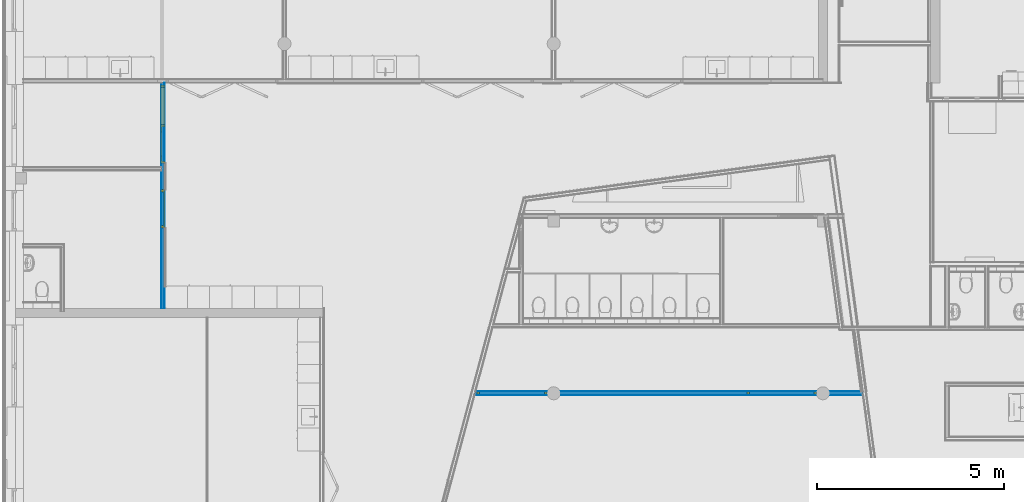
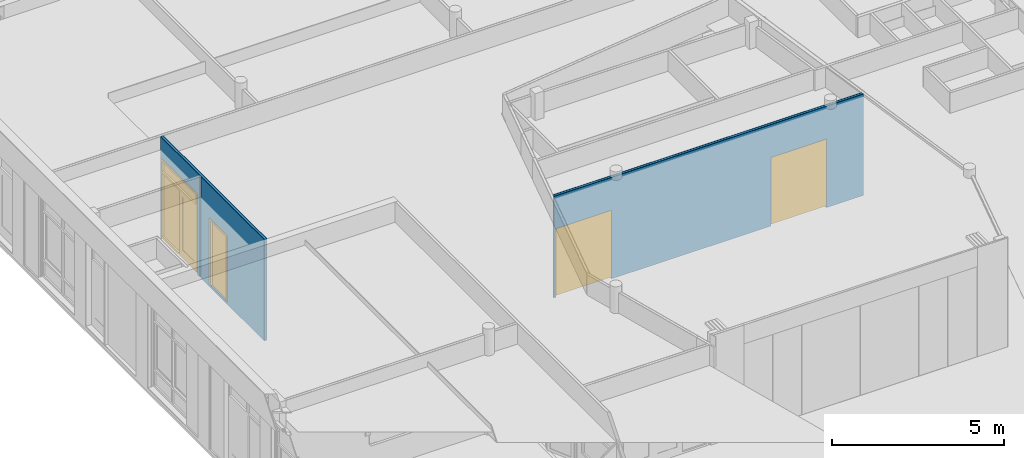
# One storey, part 32 of 167: 6 building element parts, 4 doors, 4 openings, 2 elements without a shape of their own.
"""IFC2X3 building model written with IfcOpenShell, lengths in millimetres."""

from ifc_helpers import new_model, entity, si_unit, converted_unit, derived_unit, money_unit, direction, frame, origin_with_axes, place, context, subcontext, project, spatial, open_shell, faceted_brep, surface_model, source, transform, mapped, material, type_object, type_shapes, element, fill, aggregate, save


model = new_model("IFC2X3")

# Units and contexts
model_context = context("Model", 3, precision=0.01, world=origin_with_axes(), true_north=direction((0.0, 1.0)))
plan_context = context("Plan", 3, precision=0.01, world=origin_with_axes(), true_north=direction((0.0, 1.0)))
body_context = subcontext(model_context, "Body", "Model", "MODEL_VIEW")
ifc_project = project(units=[si_unit("LENGTHUNIT", "METRE", prefix="MILLI"), si_unit("AREAUNIT", "SQUARE_METRE"), si_unit("VOLUMEUNIT", "CUBIC_METRE"), converted_unit("PLANEANGLEUNIT", "DEGREE", entity("IfcPlaneAngleMeasure", 0.0174532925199), si_unit("PLANEANGLEUNIT", "RADIAN"), dimensions=[0, 0, 0, 0, 0, 0, 0]), si_unit("SOLIDANGLEUNIT", "STERADIAN"), money_unit("EUR"), converted_unit("TIMEUNIT", "Year", entity("IfcTimeMeasure", 31556926.0), si_unit("TIMEUNIT", "SECOND"), dimensions=[0, 0, 1, 0, 0, 0, 0]), si_unit("MASSUNIT", "GRAM", prefix="KILO"), si_unit("THERMODYNAMICTEMPERATUREUNIT", "DEGREE_CELSIUS"), si_unit("LUMINOUSINTENSITYUNIT", "LUMEN"), si_unit("ENERGYUNIT", "JOULE", prefix="MEGA"), derived_unit("THERMALCONDUCTANCEUNIT", [(si_unit("POWERUNIT", "WATT"), 1), (si_unit("LENGTHUNIT", "METRE"), -1), (si_unit("THERMODYNAMICTEMPERATUREUNIT", "KELVIN"), -1)]), derived_unit("SPECIFICHEATCAPACITYUNIT", [(si_unit("ENERGYUNIT", "JOULE"), 1), (si_unit("MASSUNIT", "GRAM", prefix="KILO"), -1), (si_unit("THERMODYNAMICTEMPERATUREUNIT", "KELVIN"), -1)]), derived_unit("MASSDENSITYUNIT", [(si_unit("MASSUNIT", "GRAM", prefix="KILO"), 1), (si_unit("VOLUMEUNIT", "CUBIC_METRE"), -1)])], contexts=[model_context, plan_context])

# Site, building, storey
site_placement = place(None, origin_with_axes())
site = spatial("IfcSite", under=ifc_project, at=site_placement, Name="Site", CompositionType="ELEMENT")
building_placement = place(site_placement, origin_with_axes())
building = spatial("IfcBuilding", under=site, at=building_placement, Name="Naam gebouw", CompositionType="ELEMENT")
storey_placement = place(building_placement, origin_with_axes())
storey = spatial("IfcBuildingStorey", under=building, at=storey_placement, Name="Begane grond", CompositionType="ELEMENT", Elevation=0.0)

# Door
door_style_1 = type_object("IfcDoorStyle", Name="D1 bl zl1-b 24", ConstructionType="NOTDEFINED", OperationType="SINGLE_SWING_LEFT", ParameterTakesPrecedence=False, Sizeable=False)
shared_shape_1 = source(origin_with_axes(), body_context, "Body", "SurfaceModel", [
    faceted_brep([(1050.0, 0.0, 0.0), (1050.0, -114.0, 0.0), (983.0, -114.0, 0.0), (983.0, 0.0, 0.0), (1050.0, 0.0, 2733.0), (1050.0, -114.0, 2733.0), (983.0, -114.0, 2733.0), (983.0, -114.0, 2375.0), (983.0, -114.0, 2300.0), (983.0, -114.0, 67.0), (983.0, 0.0, 67.0), (983.0, 0.0, 2300.0), (983.0, 0.0, 2375.0), (983.0, 0.0, 2733.0)], [[[0, 1, 2, 3]], [[4, 5, 1, 0]], [[1, 5, 6, 7, 8, 9, 2]], [[3, 2, 9, 10]], [[0, 3, 10, 11, 12, 13, 4]], [[13, 6, 5, 4]], [[12, 7, 6, 13]], [[11, 8, 7, 12]], [[10, 9, 8, 11]]]),
    faceted_brep([(-83.0, -40.0, 0.0), (-83.0, -114.0, 0.0), (-83.0, -114.0, 2300.0), (-83.0, -40.0, 2300.0), (-58.0, -40.0, 0.0), (-58.0, 0.0, 0.0), (-16.0, 0.0, 0.0), (-16.0, -114.0, 0.0), (-16.0, -114.0, 67.0), (-16.0, -114.0, 2300.0), (-58.0, -40.0, 2300.0), (-16.0, 0.0, 2300.0), (-58.0, 0.0, 2300.0), (-16.0, 0.0, 67.0)], [[[0, 1, 2, 3]], [[4, 5, 6, 7, 1, 0]], [[7, 8, 9, 2, 1]], [[10, 3, 2, 9, 11, 12]], [[10, 4, 0, 3]], [[12, 5, 4, 10]], [[12, 11, 13, 6, 5]], [[6, 13, 8, 7]], [[13, 11, 9, 8]]]),
    faceted_brep([(983.0, 0.0, 67.0), (983.0, -114.0, 67.0), (983.0, -114.0, 0.0), (983.0, 0.0, 0.0), (-16.0, 0.0, 67.0), (-16.0, -114.0, 67.0), (-16.0, -114.0, 0.0), (-16.0, 0.0, 0.0)], [[[0, 1, 2, 3]], [[4, 5, 1, 0]], [[1, 5, 6, 2]], [[3, 2, 6, 7]], [[0, 3, 7, 4]], [[7, 6, 5, 4]]]),
    faceted_brep([(-1008.0, 0.0, 2325.0), (-1008.0, 0.0, 0.0), (-1050.0, 0.0, 0.0), (-1050.0, 0.0, 2733.0), (-983.0, 0.0, 2733.0), (-983.0, 0.0, 2375.0), (-983.0, 0.0, 2325.0), (-1008.0, -40.0, 2325.0), (-1008.0, -40.0, 0.0), (-983.0, -40.0, 0.0), (-983.0, -114.0, 0.0), (-1050.0, -114.0, 0.0), (-1050.0, -114.0, 2733.0), (-983.0, -114.0, 2733.0), (-983.0, -114.0, 2375.0), (-983.0, -40.0, 2325.0), (-983.0, -114.0, 2300.0)], [[[0, 1, 2, 3, 4, 5, 6]], [[0, 7, 8, 1]], [[8, 9, 10, 11, 2, 1]], [[3, 2, 11, 12]], [[4, 3, 12, 13]], [[5, 4, 13, 14]], [[15, 6, 5, 14, 16, 10, 9]], [[6, 15, 7, 0]], [[8, 7, 15, 9]], [[14, 13, 12, 11, 10, 16]]]),
    faceted_brep([(1050.0, 0.0, 2800.0), (1050.0, -114.0, 2800.0), (1050.0, -114.0, 2733.0), (1050.0, 0.0, 2733.0), (-1050.0, 0.0, 2800.0), (-1050.0, -114.0, 2800.0), (-1050.0, -114.0, 2733.0), (-983.0, -114.0, 2733.0), (983.0, -114.0, 2733.0), (983.0, 0.0, 2733.0), (-983.0, 0.0, 2733.0), (-1050.0, 0.0, 2733.0)], [[[0, 1, 2, 3]], [[4, 5, 1, 0]], [[1, 5, 6, 7, 8, 2]], [[3, 2, 8, 9]], [[0, 3, 9, 10, 11, 4]], [[11, 6, 5, 4]], [[10, 7, 6, 11]], [[9, 8, 7, 10]]]),
    faceted_brep([(-983.0, -40.0, 2325.0), (-983.0, -40.0, 2300.0), (-983.0, -114.0, 2300.0), (-983.0, -114.0, 2375.0), (-983.0, 0.0, 2375.0), (-983.0, 0.0, 2325.0), (-58.0, -40.0, 2325.0), (-58.0, -40.0, 2300.0), (-83.0, -40.0, 2300.0), (-83.0, -114.0, 2300.0), (-16.0, -114.0, 2300.0), (983.0, -114.0, 2300.0), (983.0, -114.0, 2375.0), (983.0, 0.0, 2375.0), (-58.0, 0.0, 2325.0), (983.0, 0.0, 2300.0), (-16.0, 0.0, 2300.0), (-58.0, 0.0, 2300.0)], [[[0, 1, 2, 3, 4, 5]], [[0, 6, 7, 8, 1]], [[8, 9, 2, 1]], [[9, 10, 11, 12, 3, 2]], [[13, 4, 3, 12]], [[14, 5, 4, 13, 15, 16, 17]], [[5, 14, 6, 0]], [[17, 7, 6, 14]], [[7, 17, 16, 10, 9, 8]], [[16, 15, 11, 10]], [[15, 13, 12, 11]]]),
    faceted_brep([(-1008.0, 0.0, 300.0), (-858.0, 0.0, 300.0), (-858.0, -40.0, 300.0), (-1008.0, -40.0, 300.0), (-1008.0, 0.0, 2175.0), (-858.0, 0.0, 2175.0), (-858.0, -40.0, 2175.0), (-1008.0, -40.0, 2175.0)], [[[0, 1, 2, 3]], [[0, 4, 5, 1]], [[1, 5, 6, 2]], [[3, 2, 6, 7]], [[4, 0, 3, 7]], [[5, 4, 7, 6]]]),
    faceted_brep([(-58.0, 0.0, 300.0), (-58.0, 0.0, 2175.0), (-58.0, -40.0, 2175.0), (-58.0, -40.0, 300.0), (-208.0, 0.0, 300.0), (-208.0, 0.0, 2175.0), (-208.0, -40.0, 2175.0), (-208.0, -40.0, 300.0)], [[[0, 1, 2, 3]], [[0, 4, 5, 1]], [[1, 5, 6, 2]], [[3, 2, 6, 7]], [[4, 0, 3, 7]], [[5, 4, 7, 6]]]),
    faceted_brep([(-1008.0, 0.0, 0.0), (-58.0, 0.0, 0.0), (-58.0, -40.0, 0.0), (-1008.0, -40.0, 0.0), (-1008.0, 0.0, 300.0), (-858.0, 0.0, 300.0), (-208.0, 0.0, 300.0), (-58.0, 0.0, 300.0), (-58.0, -40.0, 300.0), (-208.0, -40.0, 300.0), (-858.0, -40.0, 300.0), (-1008.0, -40.0, 300.0)], [[[0, 1, 2, 3]], [[0, 4, 5, 6, 7, 1]], [[1, 7, 8, 2]], [[3, 2, 8, 9, 10, 11]], [[4, 0, 3, 11]], [[5, 4, 11, 10]], [[6, 5, 10, 9]], [[7, 6, 9, 8]]]),
    faceted_brep([(-1008.0, 0.0, 2325.0), (-1008.0, 0.0, 2175.0), (-1008.0, -40.0, 2175.0), (-1008.0, -40.0, 2325.0), (-58.0, 0.0, 2325.0), (-58.0, 0.0, 2175.0), (-208.0, 0.0, 2175.0), (-858.0, 0.0, 2175.0), (-858.0, -40.0, 2175.0), (-208.0, -40.0, 2175.0), (-58.0, -40.0, 2175.0), (-58.0, -40.0, 2325.0)], [[[0, 1, 2, 3]], [[0, 4, 5, 6, 7, 1]], [[1, 7, 8, 2]], [[3, 2, 8, 9, 10, 11]], [[4, 0, 3, 11]], [[5, 4, 11, 10]], [[6, 5, 10, 9]], [[7, 6, 9, 8]]]),
    surface_model("IfcShellBasedSurfaceModel", [(-858.0, -14.0, 300.0), (-858.0, -14.0, 2175.0), (-208.0, -14.0, 2175.0), (-208.0, -14.0, 300.0)], [open_shell([[[0, 1, 2, 3]]])]),
    surface_model("IfcShellBasedSurfaceModel", [(-858.0, -26.0, 300.0), (-208.0, -26.0, 300.0), (-208.0, -26.0, 2175.0), (-858.0, -26.0, 2175.0)], [open_shell([[[0, 1, 2, 3]]])]),
    surface_model("IfcShellBasedSurfaceModel", [(983.0, -54.0, 2375.0), (-983.0, -54.0, 2375.0), (-983.0, -54.0, 2733.0), (983.0, -54.0, 2733.0)], [open_shell([[[0, 1, 2, 3]]])]),
    surface_model("IfcShellBasedSurfaceModel", [(983.0, -66.0, 2375.0), (983.0, -66.0, 2733.0), (-983.0, -66.0, 2733.0), (-983.0, -66.0, 2375.0)], [open_shell([[[0, 1, 2, 3]]])]),
    surface_model("IfcShellBasedSurfaceModel", [(983.0, -54.0, 67.0), (-16.0, -54.0, 67.0), (-16.0, -54.0, 2300.0), (983.0, -54.0, 2300.0)], [open_shell([[[0, 1, 2, 3]]])]),
    surface_model("IfcShellBasedSurfaceModel", [(983.0, -66.0, 67.0), (983.0, -66.0, 2300.0), (-16.0, -66.0, 2300.0), (-16.0, -66.0, 67.0)], [open_shell([[[0, 1, 2, 3]]])]),
])
type_shapes(door_style_1, [shared_shape_1])
wall_1_placement = place(storey_placement, frame((3950.0, 42200.0, -100.0), z_axis=(0.0, 0.0, 1.0), x_axis=(0.0, -1.0, 0.0)))
opening_1_placement = place(wall_1_placement, frame((1150.0, 0.0, 100.0), z_axis=(0.0, 0.0, 1.0), x_axis=(1.0, 0.0, 0.0)))
door_1_placement = place(opening_1_placement, frame((1050.0, 0.0, 0.0), z_axis=(0.0, 0.0, 1.0), x_axis=(-1.0, 0.0, 0.0)))
door_1 = element("IfcDoor", 1, at=door_1_placement, inside=storey, type_object=door_style_1, Name="32_Deur_Hi-52", ObjectType="DOOR", OverallHeight=2800.0, OverallWidth=2100.0, context=body_context, shape_type="MappedRepresentation", body=[
    mapped(shared_shape_1, transform((1050.0, 64.0, 0.0))),
])

door_style_2 = type_object("IfcDoorStyle", Name="D1 24", ConstructionType="NOTDEFINED", OperationType="SINGLE_SWING_LEFT", ParameterTakesPrecedence=False, Sizeable=False)
shared_shape_2 = source(origin_with_axes(), body_context, "Body", "Brep", [
    faceted_brep([(450.0, -40.0, 0.0), (450.0, -114.0, 0.0), (450.0, -114.0, 2300.0), (450.0, -40.0, 2300.0), (475.0, -40.0, 0.0), (475.0, 0.0, 0.0), (517.0, 0.0, 0.0), (517.0, -114.0, 0.0), (517.0, -114.0, 2300.0), (475.0, -40.0, 2300.0), (517.0, 0.0, 2300.0), (475.0, 0.0, 2300.0)], [[[0, 1, 2, 3]], [[4, 5, 6, 7, 1, 0]], [[1, 7, 8, 2]], [[9, 3, 2, 8, 10, 11]], [[9, 4, 0, 3]], [[11, 5, 4, 9]], [[11, 10, 6, 5]], [[6, 10, 8, 7]]]),
    faceted_brep([(-475.0, -40.0, 2300.0), (-475.0, 0.0, 2300.0), (-517.0, 0.0, 2300.0), (-517.0, -114.0, 2300.0), (-450.0, -114.0, 2300.0), (-450.0, -40.0, 2300.0), (-475.0, -40.0, 0.0), (-475.0, 0.0, 0.0), (-517.0, 0.0, 0.0), (-517.0, -114.0, 0.0), (-450.0, -114.0, 0.0), (-450.0, -40.0, 0.0)], [[[0, 1, 2, 3, 4, 5]], [[0, 6, 7, 1]], [[7, 8, 2, 1]], [[2, 8, 9, 3]], [[3, 9, 10, 4]], [[5, 4, 10, 11]], [[5, 11, 6, 0]], [[6, 11, 10, 9, 8, 7]]]),
    faceted_brep([(475.0, 0.0, 2325.0), (-475.0, 0.0, 2325.0), (-475.0, 0.0, 2300.0), (-517.0, 0.0, 2300.0), (-517.0, 0.0, 2367.0), (517.0, 0.0, 2367.0), (517.0, 0.0, 2300.0), (475.0, 0.0, 2300.0), (475.0, -40.0, 2325.0), (-475.0, -40.0, 2325.0), (-475.0, -40.0, 2300.0), (-450.0, -40.0, 2300.0), (-450.0, -114.0, 2300.0), (-517.0, -114.0, 2300.0), (-517.0, -114.0, 2367.0), (517.0, -114.0, 2367.0), (517.0, -114.0, 2300.0), (475.0, -40.0, 2300.0), (450.0, -114.0, 2300.0), (450.0, -40.0, 2300.0)], [[[0, 1, 2, 3, 4, 5, 6, 7]], [[0, 8, 9, 1]], [[1, 9, 10, 2]], [[10, 11, 12, 13, 3, 2]], [[4, 3, 13, 14]], [[5, 4, 14, 15]], [[6, 5, 15, 16]], [[17, 7, 6, 16, 18, 19]], [[7, 17, 8, 0]], [[10, 9, 8, 17, 19, 11]], [[19, 18, 12, 11]], [[12, 18, 16, 15, 14, 13]]]),
    faceted_brep([(-475.0, 0.0, 0.0), (475.0, 0.0, 0.0), (475.0, -40.0, 0.0), (-475.0, -40.0, 0.0), (-475.0, 0.0, 2325.0), (475.0, 0.0, 2325.0), (475.0, -40.0, 2325.0), (-475.0, -40.0, 2325.0)], [[[0, 1, 2, 3]], [[0, 4, 5, 1]], [[1, 5, 6, 2]], [[3, 2, 6, 7]], [[4, 0, 3, 7]], [[5, 4, 7, 6]]]),
])
type_shapes(door_style_2, [shared_shape_2])
opening_2_placement = place(wall_1_placement, frame((3417.0, 0.0, 102.0), z_axis=(0.0, 0.0, 1.0), x_axis=(1.0, 0.0, 0.0)))
door_2_placement = place(opening_2_placement, frame((-517.0, 0.0, 0.0), z_axis=(0.0, 0.0, 1.0), x_axis=(1.0, 0.0, 0.0)))
door_2 = element("IfcDoor", 2, at=door_2_placement, inside=storey, type_object=door_style_2, Name="32_Deur_Hi-02", ObjectType="DOOR", OverallHeight=2367.0, OverallWidth=1034.0, context=body_context, shape_type="MappedRepresentation", body=[
    mapped(shared_shape_2, transform((517.0, 50.0, 0.0))),
])

door_style_3 = type_object("IfcDoorStyle", Name="D2 24", ConstructionType="NOTDEFINED", OperationType="DOUBLE_DOOR_SINGLE_SWING", ParameterTakesPrecedence=False, Sizeable=False)
shared_shape_3 = source(origin_with_axes(), body_context, "Body", "Brep", [
    faceted_brep([(865.5, -40.0, 0.0), (865.5, -114.0, 0.0), (865.5, -114.0, 2300.0), (865.5, -40.0, 2300.0), (890.5, -40.0, 0.0), (890.5, 0.0, 0.0), (932.5, 0.0, 0.0), (932.5, -114.0, 0.0), (932.5, -114.0, 2300.0), (890.5, -40.0, 2300.0), (932.5, 0.0, 2300.0), (890.5, 0.0, 2300.0)], [[[0, 1, 2, 3]], [[4, 5, 6, 7, 1, 0]], [[1, 7, 8, 2]], [[9, 3, 2, 8, 10, 11]], [[9, 4, 0, 3]], [[11, 5, 4, 9]], [[11, 10, 6, 5]], [[6, 10, 8, 7]]]),
    faceted_brep([(-890.5, -40.0, 2300.0), (-890.5, 0.0, 2300.0), (-932.5, 0.0, 2300.0), (-932.5, -114.0, 2300.0), (-865.5, -114.0, 2300.0), (-865.5, -40.0, 2300.0), (-890.5, -40.0, 0.0), (-890.5, 0.0, 0.0), (-932.5, 0.0, 0.0), (-932.5, -114.0, 0.0), (-865.5, -114.0, 0.0), (-865.5, -40.0, 0.0)], [[[0, 1, 2, 3, 4, 5]], [[0, 6, 7, 1]], [[7, 8, 2, 1]], [[2, 8, 9, 3]], [[3, 9, 10, 4]], [[5, 4, 10, 11]], [[5, 11, 6, 0]], [[6, 11, 10, 9, 8, 7]]]),
    faceted_brep([(890.5, 0.0, 2325.0), (-890.5, 0.0, 2325.0), (-890.5, 0.0, 2300.0), (-932.5, 0.0, 2300.0), (-932.5, 0.0, 2367.0), (932.5, 0.0, 2367.0), (932.5, 0.0, 2300.0), (890.5, 0.0, 2300.0), (890.5, -40.0, 2325.0), (-890.5, -40.0, 2325.0), (-890.5, -40.0, 2300.0), (-865.5, -40.0, 2300.0), (-865.5, -114.0, 2300.0), (-932.5, -114.0, 2300.0), (-932.5, -114.0, 2367.0), (932.5, -114.0, 2367.0), (932.5, -114.0, 2300.0), (890.5, -40.0, 2300.0), (865.5, -114.0, 2300.0), (865.5, -40.0, 2300.0)], [[[0, 1, 2, 3, 4, 5, 6, 7]], [[0, 8, 9, 1]], [[1, 9, 10, 2]], [[10, 11, 12, 13, 3, 2]], [[4, 3, 13, 14]], [[5, 4, 14, 15]], [[6, 5, 15, 16]], [[17, 7, 6, 16, 18, 19]], [[7, 17, 8, 0]], [[10, 9, 8, 17, 19, 11]], [[19, 18, 12, 11]], [[12, 18, 16, 15, 14, 13]]]),
    faceted_brep([(-890.5, 0.0, 0.0), (0.0, 0.0, 0.0), (0.0, -40.0, 0.0), (-890.5, -40.0, 0.0), (-890.5, 0.0, 2325.0), (0.0, 0.0, 2325.0), (0.0, -40.0, 2325.0), (-890.5, -40.0, 2325.0)], [[[0, 1, 2, 3]], [[0, 4, 5, 1]], [[1, 5, 6, 2]], [[3, 2, 6, 7]], [[4, 0, 3, 7]], [[5, 4, 7, 6]]]),
    faceted_brep([(890.5, 0.0, 0.0), (890.5, -40.0, 0.0), (0.0, -40.0, 0.0), (0.0, 0.0, 0.0), (890.5, 0.0, 2325.0), (890.5, -40.0, 2325.0), (0.0, -40.0, 2325.0), (0.0, 0.0, 2325.0)], [[[0, 1, 2, 3]], [[4, 5, 1, 0]], [[1, 5, 6, 2]], [[3, 2, 6, 7]], [[0, 3, 7, 4]], [[7, 6, 5, 4]]]),
])
type_shapes(door_style_3, [shared_shape_3])
wall_2_placement = place(storey_placement, frame((12249.0203472, 33851.6966009, -100.0), z_axis=(0.0, 0.0, 1.0), x_axis=(1.0, 0.0, 0.0)))
opening_3_placement = place(wall_2_placement, frame((1036.12328744, 0.0, 100.0), z_axis=(0.0, 0.0, 1.0), x_axis=(1.0, 0.0, 0.0)))
door_3_placement = place(opening_3_placement, frame((932.5, 0.0, 0.0), z_axis=(0.0, 0.0, 1.0), x_axis=(-1.0, 0.0, 0.0)))
door_3 = element("IfcDoor", 3, at=door_3_placement, inside=storey, type_object=door_style_3, Name="32_Deur_Hi-09", ObjectType="DOOR", OverallHeight=2367.0, OverallWidth=1865.0, context=body_context, shape_type="MappedRepresentation", body=[
    mapped(shared_shape_3, transform((932.5, 50.0, 0.0))),
])

opening_4_placement = place(wall_2_placement, frame((8250.77455446, 0.0, 100.0), z_axis=(0.0, 0.0, 1.0), x_axis=(1.0, 0.0, 0.0)))
door_4_placement = place(opening_4_placement, frame((932.5, 0.0, 0.0), z_axis=(0.0, 0.0, 1.0), x_axis=(-1.0, 0.0, 0.0)))
door_4 = element("IfcDoor", 4, at=door_4_placement, inside=storey, type_object=door_style_3, Name="32_Deur_Hi-09", ObjectType="DOOR", OverallHeight=2367.0, OverallWidth=1865.0, context=body_context, shape_type="MappedRepresentation", body=[
    mapped(shared_shape_3, transform((932.5, 50.0, 0.0))),
])

# Wall, opening
wall_type = type_object("IfcWallType", Name="_TenW_22_Metalstud 100 enkel gipsvezelplaat 100", PredefinedType="NOTDEFINED")
wall_1 = element("IfcWall", 5, at=wall_1_placement, inside=storey, type_object=wall_type, Name="22_Wand_Wand-x")
opening_1 = element("IfcOpeningElement", 6, at=opening_1_placement, cuts=wall_1, Name="32_Deur_Hi-52", context=body_context, shape_type="Brep", body=[
    faceted_brep([(1050.0, 200.0, 0.0), (1050.0, 200.0, 2800.0), (1050.0, -100.0, 2800.0), (1050.0, -100.0, 0.0), (-1050.0, 200.0, 0.0), (-1050.0, 200.0, 2800.0), (-1050.0, -100.0, 2800.0), (-1050.0, -100.0, 0.0)], [[[0, 1, 2, 3]], [[0, 4, 5, 1]], [[1, 5, 6, 2]], [[3, 2, 6, 7]], [[4, 0, 3, 7]], [[5, 4, 7, 6]]]),
])

fill(opening_1, door_1)

# Opening
opening_2 = element("IfcOpeningElement", 7, at=opening_2_placement, cuts=wall_1, Name="32_Deur_Hi-02", context=body_context, shape_type="Brep", body=[
    faceted_brep([(-517.0, 200.0, 2367.0), (-517.0, 200.0, 0.0), (-517.0, -100.0, 0.0), (-517.0, -100.0, 2367.0), (517.0, 200.0, 2367.0), (517.0, 200.0, 0.0), (517.0, -100.0, 0.0), (517.0, -100.0, 2367.0)], [[[0, 1, 2, 3]], [[0, 4, 5, 1]], [[1, 5, 6, 2]], [[3, 2, 6, 7]], [[4, 0, 3, 7]], [[5, 4, 7, 6]]]),
])

fill(opening_2, door_2)

# Building element part
ifc_material_1 = material(Name="Gipsplaat watervast")
building_element_part_1_placement = place(wall_1_placement, origin_with_axes())
building_element_part_1 = element("IfcBuildingElementPart", 8, at=building_element_part_1_placement, material=ifc_material_1, Name="Gipsplaat watervast", context=body_context, shape_type="Brep", body=[
    faceted_brep([(100.0, 37.5, 30.0), (100.0, 37.5, 100.0), (100.0, 37.5, 2900.0), (2200.0, 37.5, 2900.0), (2200.0, 37.5, 100.0), (2200.0, 37.5, 30.0), (6075.0, 37.5, 30.0), (6075.0, 37.5, 3630.0), (37.5, 37.5, 3630.0), (37.5, 37.5, 30.0), (3934.0, 37.5, 102.0), (2900.0, 37.5, 102.0), (2900.0, 37.5, 2469.0), (3934.0, 37.5, 2469.0), (100.0, 50.0, 30.0), (100.0, 50.0, 100.0), (100.0, 50.0, 2900.0), (2200.0, 50.0, 2900.0), (2200.0, 50.0, 100.0), (2200.0, 50.0, 30.0), (6075.0, 50.0, 30.0), (6075.0, 50.0, 3630.0), (37.5, 50.0, 3630.0), (37.5, 50.0, 30.0), (3934.0, 50.0, 102.0), (2900.0, 50.0, 102.0), (2900.0, 50.0, 2469.0), (3934.0, 50.0, 2469.0)], [[[0, 1, 2, 3, 4, 5, 6, 7, 8, 9], [10, 11, 12, 13]], [[1, 0, 14, 15]], [[16, 2, 1, 15]], [[17, 3, 2, 16]], [[18, 4, 3, 17]], [[18, 19, 5, 4]], [[20, 6, 5, 19]], [[21, 7, 6, 20]], [[8, 7, 21, 22]], [[8, 22, 23, 9]], [[9, 23, 14, 0]], [[24, 25, 11, 10]], [[25, 26, 12, 11]], [[26, 27, 13, 12]], [[27, 24, 10, 13]], [[21, 20, 19, 18, 17, 16, 15, 14, 23, 22], [24, 27, 26, 25]]]),
])

ifc_material_2 = material(Name="Isolatie - Steenwol zacht")
building_element_part_2_placement = place(wall_1_placement, origin_with_axes())
building_element_part_2 = element("IfcBuildingElementPart", 9, at=building_element_part_2_placement, material=ifc_material_2, Name="Isolatie - Steenwol zacht", context=body_context, shape_type="Brep", body=[
    faceted_brep([(100.0, -37.5, 30.0), (100.0, -37.5, 100.0), (100.0, -37.5, 2900.0), (2200.0, -37.5, 2900.0), (2200.0, -37.5, 100.0), (2200.0, -37.5, 30.0), (6075.0, -37.5, 30.0), (6075.0, -37.5, 3630.0), (37.5, -37.5, 3630.0), (37.5, -37.5, 30.0), (3934.0, -37.5, 102.0), (2900.0, -37.5, 102.0), (2900.0, -37.5, 2469.0), (3934.0, -37.5, 2469.0), (100.0, 37.5, 30.0), (100.0, 37.5, 100.0), (100.0, 37.5, 2900.0), (2200.0, 37.5, 2900.0), (2200.0, 37.5, 100.0), (2200.0, 37.5, 30.0), (6075.0, 37.5, 30.0), (6075.0, 37.5, 3630.0), (37.5, 37.5, 3630.0), (37.5, 37.5, 30.0), (3934.0, 37.5, 102.0), (2900.0, 37.5, 102.0), (2900.0, 37.5, 2469.0), (3934.0, 37.5, 2469.0)], [[[0, 1, 2, 3, 4, 5, 6, 7, 8, 9], [10, 11, 12, 13]], [[1, 0, 14, 15]], [[16, 2, 1, 15]], [[17, 3, 2, 16]], [[18, 4, 3, 17]], [[18, 19, 5, 4]], [[20, 6, 5, 19]], [[21, 7, 6, 20]], [[7, 21, 22, 8]], [[8, 22, 23, 9]], [[9, 23, 14, 0]], [[24, 25, 11, 10]], [[25, 26, 12, 11]], [[26, 27, 13, 12]], [[27, 24, 10, 13]], [[21, 20, 19, 18, 17, 16, 15, 14, 23, 22], [24, 27, 26, 25]]]),
])

building_element_part_3_placement = place(wall_1_placement, origin_with_axes())
building_element_part_3 = element("IfcBuildingElementPart", 10, at=building_element_part_3_placement, material=ifc_material_1, Name="Gipsplaat watervast", context=body_context, shape_type="Brep", body=[
    faceted_brep([(2200.0, -37.5, 100.0), (2200.0, -37.5, 2900.0), (100.0, -37.5, 2900.0), (100.0, -37.5, 100.0), (100.0, -37.5, 30.0), (50.0, -37.5, 30.0), (50.0, -37.5, 3630.0), (2312.5, -37.5, 3630.0), (2312.5, -37.5, 30.0), (2200.0, -37.5, 30.0), (2200.0, -50.0, 100.0), (2200.0, -50.0, 2900.0), (100.0, -50.0, 2900.0), (100.0, -50.0, 100.0), (100.0, -50.0, 30.0), (50.0, -50.0, 30.0), (50.0, -50.0, 3630.0), (2312.5, -50.0, 3630.0), (2312.5, -50.0, 30.0), (2200.0, -50.0, 30.0)], [[[0, 1, 2, 3, 4, 5, 6, 7, 8, 9]], [[1, 0, 10, 11]], [[2, 1, 11, 12]], [[3, 2, 12, 13]], [[3, 13, 14, 4]], [[14, 15, 5, 4]], [[15, 16, 6, 5]], [[17, 7, 6, 16]], [[8, 7, 17, 18]], [[9, 8, 18, 19]], [[10, 0, 9, 19]], [[11, 10, 19, 18, 17, 16, 15, 14, 13, 12]]]),
    faceted_brep([(6075.0, -50.0, 30.0), (6075.0, -50.0, 3630.0), (2387.5, -50.0, 3630.0), (2387.5, -50.0, 30.0), (3934.0, -50.0, 102.0), (2900.0, -50.0, 102.0), (2900.0, -50.0, 2469.0), (3934.0, -50.0, 2469.0), (6075.0, -37.5, 30.0), (6075.0, -37.5, 3630.0), (2387.5, -37.5, 3630.0), (2387.5, -37.5, 30.0), (3934.0, -37.5, 102.0), (2900.0, -37.5, 102.0), (2900.0, -37.5, 2469.0), (3934.0, -37.5, 2469.0)], [[[0, 1, 2, 3], [4, 5, 6, 7]], [[8, 9, 1, 0]], [[1, 9, 10, 2]], [[3, 2, 10, 11]], [[11, 8, 0, 3]], [[12, 13, 5, 4]], [[13, 14, 6, 5]], [[14, 15, 7, 6]], [[15, 12, 4, 7]], [[11, 10, 9, 8], [12, 15, 14, 13]]]),
])

aggregate(wall_1, [building_element_part_1, building_element_part_2, building_element_part_3])

# Wall, opening
wall_2 = element("IfcWall", 11, at=wall_2_placement, inside=storey, type_object=wall_type, Name="22_Wand_Wand-x")
opening_3 = element("IfcOpeningElement", 12, at=opening_3_placement, cuts=wall_2, Name="32_Deur_Hi-09", context=body_context, shape_type="Brep", body=[
    faceted_brep([(932.5, -200.0, 2367.0), (932.5, -200.0, 0.0), (932.5, 100.0, 0.0), (932.5, 100.0, 2367.0), (-932.5, -200.0, 2367.0), (-932.5, -200.0, 0.0), (-932.5, 100.0, 0.0), (-932.5, 100.0, 2367.0)], [[[0, 1, 2, 3]], [[0, 4, 5, 1]], [[1, 5, 6, 2]], [[3, 2, 6, 7]], [[4, 0, 3, 7]], [[5, 4, 7, 6]]]),
])

fill(opening_3, door_3)

# Opening
opening_4 = element("IfcOpeningElement", 13, at=opening_4_placement, cuts=wall_2, Name="32_Deur_Hi-09", context=body_context, shape_type="Brep", body=[
    faceted_brep([(932.5, -200.0, 2367.0), (932.5, -200.0, 0.0), (932.5, 100.0, 0.0), (932.5, 100.0, 2367.0), (-932.5, -200.0, 2367.0), (-932.5, -200.0, 0.0), (-932.5, 100.0, 0.0), (-932.5, 100.0, 2367.0)], [[[0, 1, 2, 3]], [[0, 4, 5, 1]], [[1, 5, 6, 2]], [[3, 2, 6, 7]], [[4, 0, 3, 7]], [[5, 4, 7, 6]]]),
])

fill(opening_4, door_4)

# Building element part
building_element_part_4_placement = place(wall_2_placement, origin_with_axes())
building_element_part_4 = element("IfcBuildingElementPart", 14, at=building_element_part_4_placement, material=ifc_material_1, Name="Gipsplaat watervast", context=body_context, shape_type="Brep", body=[
    faceted_brep([(7318.27455446, 50.0, 2467.0), (7318.27455446, 50.0, 100.0), (7318.27455446, 50.0, 30.0), (1968.62328744, 50.0, 30.0), (1968.62328744, 50.0, 100.0), (1968.62328744, 50.0, 2467.0), (103.623287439, 50.0, 2467.0), (103.623287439, 50.0, 100.0), (103.623287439, 50.0, 30.0), (65.1612686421, 50.0, 30.0), (65.1612686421, 50.0, 3630.0), (10409.5568131, 50.0, 3630.0), (10409.5568131, 50.0, 30.0), (9183.27455446, 50.0, 30.0), (9183.27455446, 50.0, 100.0), (9183.27455446, 50.0, 2467.0), (7318.27455446, 37.5, 2467.0), (7318.27455446, 37.5, 100.0), (7318.27455446, 37.5, 30.0), (1968.62328744, 37.5, 30.0), (1968.62328744, 37.5, 100.0), (1968.62328744, 37.5, 2467.0), (103.623287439, 37.5, 2467.0), (103.623287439, 37.5, 100.0), (103.623287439, 37.5, 30.0), (61.8119037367, 37.5, 30.0), (61.8119037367, 37.5, 3630.0), (10411.2497948, 37.5, 3630.0), (10411.2497948, 37.5, 30.0), (9183.27455446, 37.5, 30.0), (9183.27455446, 37.5, 100.0), (9183.27455446, 37.5, 2467.0)], [[[0, 1, 2, 3, 4, 5, 6, 7, 8, 9, 10, 11, 12, 13, 14, 15]], [[1, 0, 16, 17]], [[1, 17, 18, 2]], [[19, 3, 2, 18]], [[4, 3, 19, 20]], [[4, 20, 21, 5]], [[5, 21, 22, 6]], [[6, 22, 23, 7]], [[23, 24, 8, 7]], [[25, 9, 8, 24]], [[9, 25, 26, 10]], [[11, 10, 26, 27]], [[28, 12, 11, 27]], [[12, 28, 29, 13]], [[30, 14, 13, 29]], [[15, 14, 30, 31]], [[0, 15, 31, 16]], [[31, 30, 29, 28, 27, 26, 25, 24, 23, 22, 21, 20, 19, 18, 17, 16]]]),
])

building_element_part_5_placement = place(wall_2_placement, origin_with_axes())
building_element_part_5 = element("IfcBuildingElementPart", 15, at=building_element_part_5_placement, material=ifc_material_2, Name="Isolatie - Steenwol zacht", context=body_context, shape_type="Brep", body=[
    faceted_brep([(7318.27455446, 37.5, 2467.0), (7318.27455446, 37.5, 100.0), (7318.27455446, 37.5, 30.0), (1968.62328744, 37.5, 30.0), (1968.62328744, 37.5, 100.0), (1968.62328744, 37.5, 2467.0), (103.623287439, 37.5, 2467.0), (103.623287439, 37.5, 100.0), (103.623287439, 37.5, 30.0), (48.8709514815, 37.5, 30.0), (48.8709514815, 37.5, 3630.0), (10423.8639213, 37.5, 3630.0), (10423.8639213, 37.5, 30.0), (9183.27455446, 37.5, 30.0), (9183.27455446, 37.5, 100.0), (9183.27455446, 37.5, 2467.0), (7318.27455446, -37.5, 2467.0), (7318.27455446, -37.5, 100.0), (7318.27455446, -37.5, 30.0), (1968.62328744, -37.5, 30.0), (1968.62328744, -37.5, 100.0), (1968.62328744, -37.5, 2467.0), (103.623287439, -37.5, 2467.0), (103.623287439, -37.5, 100.0), (103.623287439, -37.5, 30.0), (28.7747620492, -37.5, 30.0), (28.7747620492, -37.5, 3630.0), (10434.0218117, -37.5, 3630.0), (10434.0218117, -37.5, 30.0), (9183.27455446, -37.5, 30.0), (9183.27455446, -37.5, 100.0), (9183.27455446, -37.5, 2467.0)], [[[0, 1, 2, 3, 4, 5, 6, 7, 8, 9, 10, 11, 12, 13, 14, 15]], [[1, 0, 16, 17]], [[1, 17, 18, 2]], [[19, 3, 2, 18]], [[4, 3, 19, 20]], [[4, 20, 21, 5]], [[5, 21, 22, 6]], [[6, 22, 23, 7]], [[23, 24, 8, 7]], [[25, 9, 8, 24]], [[9, 25, 26, 10]], [[11, 10, 26, 27]], [[28, 12, 11, 27]], [[12, 28, 29, 13]], [[30, 14, 13, 29]], [[15, 14, 30, 31]], [[0, 15, 31, 16]], [[31, 30, 29, 28, 27, 26, 25, 24, 23, 22, 21, 20, 19, 18, 17, 16]]]),
])

building_element_part_6_placement = place(wall_2_placement, origin_with_axes())
building_element_part_6 = element("IfcBuildingElementPart", 16, at=building_element_part_6_placement, material=ifc_material_1, Name="Gipsplaat watervast", context=body_context, shape_type="Brep", body=[
    faceted_brep([(7318.27455446, -37.5, 2467.0), (7318.27455446, -37.5, 100.0), (7318.27455446, -37.5, 30.0), (1968.62328744, -37.5, 30.0), (1968.62328744, -37.5, 100.0), (1968.62328744, -37.5, 2467.0), (103.623287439, -37.5, 2467.0), (103.623287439, -37.5, 100.0), (103.623287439, -37.5, 30.0), (41.7157143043, -37.5, 30.0), (41.7157143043, -37.5, 3630.0), (10421.4076852, -37.5, 3630.0), (10421.4076852, -37.5, 30.0), (9183.27455446, -37.5, 30.0), (9183.27455446, -37.5, 100.0), (9183.27455446, -37.5, 2467.0), (7318.27455446, -50.0, 2467.0), (7318.27455446, -50.0, 100.0), (7318.27455446, -50.0, 30.0), (1968.62328744, -50.0, 30.0), (1968.62328744, -50.0, 100.0), (1968.62328744, -50.0, 2467.0), (103.623287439, -50.0, 2467.0), (103.623287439, -50.0, 100.0), (103.623287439, -50.0, 30.0), (38.3663493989, -50.0, 30.0), (38.3663493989, -50.0, 3630.0), (10423.100667, -50.0, 3630.0), (10423.100667, -50.0, 30.0), (9183.27455446, -50.0, 30.0), (9183.27455446, -50.0, 100.0), (9183.27455446, -50.0, 2467.0)], [[[0, 1, 2, 3, 4, 5, 6, 7, 8, 9, 10, 11, 12, 13, 14, 15]], [[1, 0, 16, 17]], [[1, 17, 18, 2]], [[19, 3, 2, 18]], [[4, 3, 19, 20]], [[4, 20, 21, 5]], [[5, 21, 22, 6]], [[6, 22, 23, 7]], [[23, 24, 8, 7]], [[25, 9, 8, 24]], [[9, 25, 26, 10]], [[11, 10, 26, 27]], [[28, 12, 11, 27]], [[12, 28, 29, 13]], [[30, 14, 13, 29]], [[15, 14, 30, 31]], [[0, 15, 31, 16]], [[31, 30, 29, 28, 27, 26, 25, 24, 23, 22, 21, 20, 19, 18, 17, 16]]]),
])

aggregate(wall_2, [building_element_part_4, building_element_part_5, building_element_part_6])

save(model, "model.ifc")
